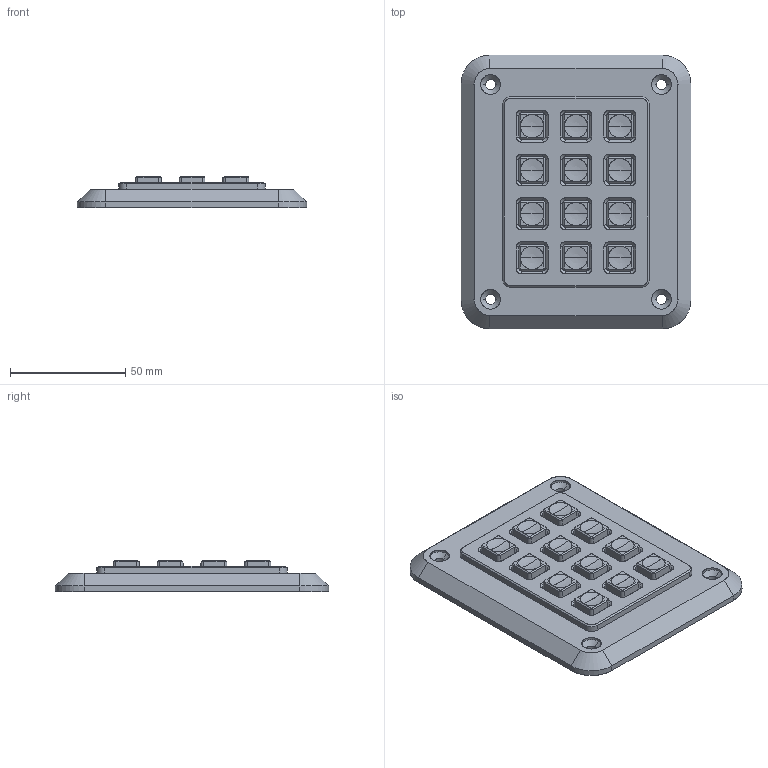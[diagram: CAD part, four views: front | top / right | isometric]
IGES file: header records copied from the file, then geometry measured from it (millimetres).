
Start section: SolidWorks IGES file using analytic representation for surfaces
Global section: file name: C:\Documents and Settings\tracys.STORMINTERFACE\Desktop\website models\K-RANGE-12WAY.IGS; native system: SolidWorks 2006 by SolidWorks Corporation; preprocessor: SolidWorks 2006 by SolidWorks Corporation; author: tracys; date: 051028.114304; units: millimetre
Bounding box: 99.5 x 118.5 x 13.6 mm (x, y, z)
Surface area: 31573.1 mm2 (no closed solid volume)
Topology: 0 solids, 0 shells, 477 faces, 4607 edges, 4595 vertices
Faces by surface type: revolution 268, bspline 209
